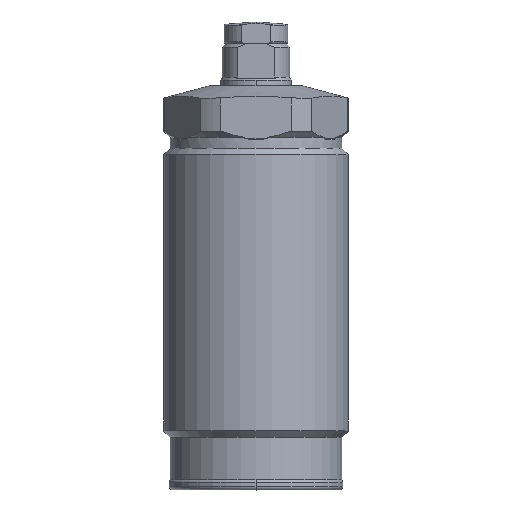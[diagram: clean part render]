
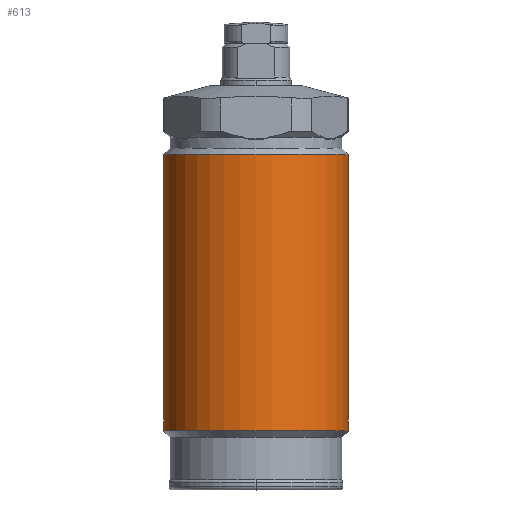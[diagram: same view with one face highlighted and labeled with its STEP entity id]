
A CAD part, top view. The second image highlights one B-rep face of the part: STEP entity #613.
In plain terms, the highlighted cylindrical face has radius 13 mm (diameter 26 mm), a partial arc.
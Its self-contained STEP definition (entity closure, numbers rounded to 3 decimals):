
#323=CYLINDRICAL_SURFACE('',#2474,13.);
#394=LINE('',#3879,#488);
#395=LINE('',#3880,#489);
#488=VECTOR('',#3062,1.);
#489=VECTOR('',#3063,1.);
#613=ADVANCED_FACE('',(#774),#323,.T.);
#774=FACE_OUTER_BOUND('',#908,.T.);
#908=EDGE_LOOP('',(#1332,#1333,#1334,#1335));
#1332=ORIENTED_EDGE('',*,*,#1975,.T.);
#1333=ORIENTED_EDGE('',*,*,#1976,.T.);
#1334=ORIENTED_EDGE('',*,*,#1973,.F.);
#1335=ORIENTED_EDGE('',*,*,#1977,.F.);
#1711=VERTEX_POINT('',#3871);
#1712=VERTEX_POINT('',#3873);
#1713=VERTEX_POINT('',#3877);
#1714=VERTEX_POINT('',#3878);
#1973=EDGE_CURVE('',#1711,#1712,#2212,.T.);
#1975=EDGE_CURVE('',#1713,#1714,#2213,.T.);
#1976=EDGE_CURVE('',#1714,#1712,#394,.T.);
#1977=EDGE_CURVE('',#1713,#1711,#395,.T.);
#2212=CIRCLE('',#2471,13.);
#2213=CIRCLE('',#2473,13.);
#2471=AXIS2_PLACEMENT_3D('',#3872,#3055,#3056);
#2473=AXIS2_PLACEMENT_3D('',#3876,#3060,#3061);
#2474=AXIS2_PLACEMENT_3D('',#3881,#3064,#3065);
#3055=DIRECTION('',(0.,-1.,0.));
#3056=DIRECTION('',(1.,0.,0.));
#3060=DIRECTION('',(0.,-1.,0.));
#3061=DIRECTION('',(1.,0.,0.));
#3062=DIRECTION('',(0.,-1.,0.));
#3063=DIRECTION('',(0.,-1.,0.));
#3064=DIRECTION('',(0.,-1.,0.));
#3065=DIRECTION('',(1.,0.,0.));
#3871=CARTESIAN_POINT('',(13.,-48.7,0.));
#3872=CARTESIAN_POINT('',(0.,-48.7,0.));
#3873=CARTESIAN_POINT('',(-13.,-48.7,0.));
#3876=CARTESIAN_POINT('',(0.,-9.7,0.));
#3877=CARTESIAN_POINT('',(13.,-9.7,0.));
#3878=CARTESIAN_POINT('',(-13.,-9.7,0.));
#3879=CARTESIAN_POINT('',(-13.,1.,0.));
#3880=CARTESIAN_POINT('',(13.,1.,0.));
#3881=CARTESIAN_POINT('',(0.,1.,0.));
